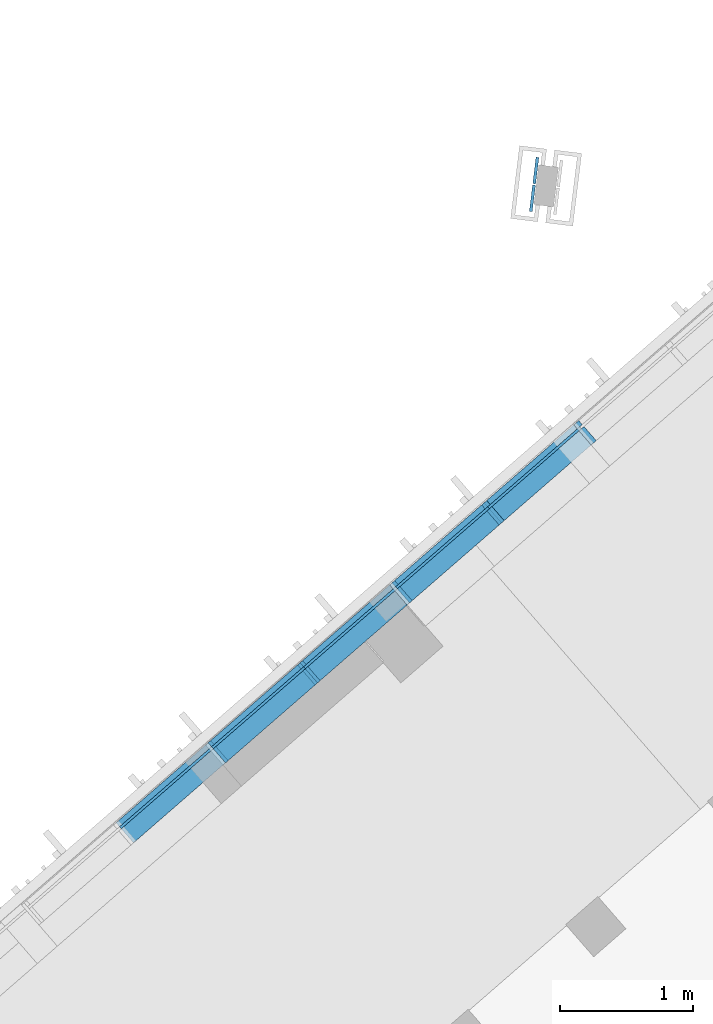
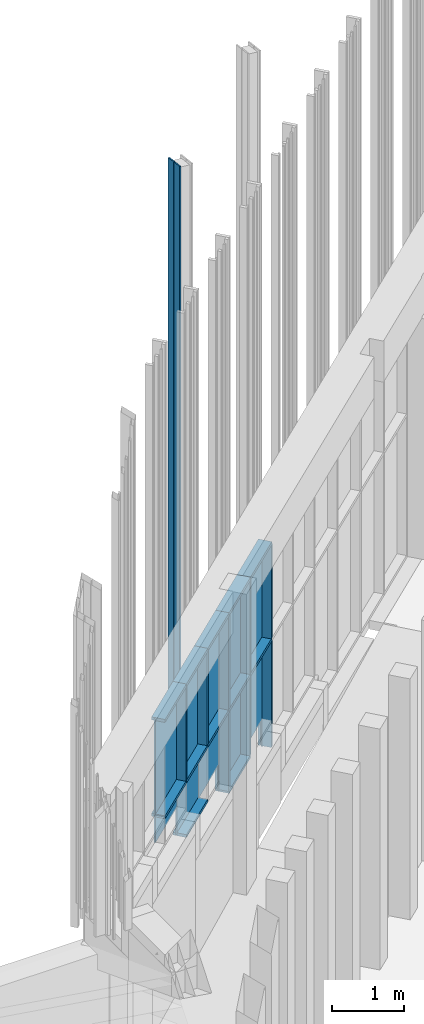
# One storey, part 34 of 390: 32 discrete accessories, 1 element without a shape of its own.
"""IFC2X3 building model written with IfcOpenShell, lengths in millimetres."""

from ifc_helpers import new_model, entity, si_unit, converted_unit, derived_unit, money_unit, direction, frame, origin_with_axes, place, context, subcontext, project, spatial, polyline, outline, extrude, faceted_brep, source, transform, mapped, material, material_list, type_object, element, aggregate, save


model = new_model("IFC2X3")

# Units and contexts
model_context = context("Model", 3, precision=1e-05, world=origin_with_axes(), true_north=direction((0.0, 1.0)))
body_context = subcontext(model_context, "Body", "Model", "MODEL_VIEW")
ifc_project = project(units=[si_unit("LENGTHUNIT", "METRE", prefix="MILLI"), si_unit("AREAUNIT", "SQUARE_METRE"), si_unit("VOLUMEUNIT", "CUBIC_METRE"), converted_unit("PLANEANGLEUNIT", "DEGREE", entity("IfcPlaneAngleMeasure", 0.0174532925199), si_unit("PLANEANGLEUNIT", "RADIAN"), dimensions=[0, 0, 0, 0, 0, 0, 0]), si_unit("SOLIDANGLEUNIT", "STERADIAN"), money_unit("EUR"), converted_unit("TIMEUNIT", "Year", entity("IfcTimeMeasure", 31556926.0), si_unit("TIMEUNIT", "SECOND"), dimensions=[0, 0, 1, 0, 0, 0, 0]), si_unit("MASSUNIT", "GRAM", prefix="KILO"), si_unit("THERMODYNAMICTEMPERATUREUNIT", "DEGREE_CELSIUS"), si_unit("LUMINOUSINTENSITYUNIT", "LUMEN"), si_unit("ENERGYUNIT", "JOULE", prefix="MEGA"), derived_unit("THERMALCONDUCTANCEUNIT", [(si_unit("POWERUNIT", "WATT"), 1), (si_unit("LENGTHUNIT", "METRE"), -1), (si_unit("THERMODYNAMICTEMPERATUREUNIT", "KELVIN"), -1)]), derived_unit("SPECIFICHEATCAPACITYUNIT", [(si_unit("ENERGYUNIT", "JOULE"), 1), (si_unit("MASSUNIT", "GRAM", prefix="KILO"), -1), (si_unit("THERMODYNAMICTEMPERATUREUNIT", "KELVIN"), -1)]), derived_unit("MASSDENSITYUNIT", [(si_unit("MASSUNIT", "GRAM", prefix="KILO"), 1), (si_unit("VOLUMEUNIT", "CUBIC_METRE"), -1)])], contexts=[model_context])

# Site, building, storey
site_placement = place(None, origin_with_axes())
site = spatial("IfcSite", under=ifc_project, at=site_placement, Name="Site", CompositionType="ELEMENT")
building_placement = place(site_placement, origin_with_axes())
building = spatial("IfcBuilding", under=site, at=building_placement, Name="Building", CompositionType="ELEMENT")
storey_placement = place(building_placement, origin_with_axes())
storey = spatial("IfcBuildingStorey", under=building, at=storey_placement, Name="1 korrus", CompositionType="ELEMENT", Elevation=0.0)

# Discrete accessories
ifc_material_1 = material(Name="GENEERILINE - VÄLINE VOODER")
discrete_accessory_type_1 = type_object("IfcDiscreteAccessoryType", Name="GENEERILINE - VÄLINE VOODER")
shared_shape_1 = source(origin_with_axes(), body_context, "Body", "Brep", [
    faceted_brep([(162190.360855, 119453.798876, 100.0), (162190.360855, 119453.798876, 9600.0), (162168.524839, 119456.480002, 9600.0), (162168.524839, 119456.480002, 100.0), (162214.734723, 119652.308107, 100.0), (162214.734723, 119652.308107, 9546.41016151), (162192.898708, 119654.989232, 9546.41016151), (162192.898708, 119654.989232, 100.0)], [[[0, 1, 2, 3]], [[1, 0, 4, 5]], [[2, 1, 5, 6]], [[3, 2, 6, 7]], [[0, 3, 7, 4]], [[7, 6, 5, 4]]]),
])
discrete_accessory_1_placement = place(storey_placement, frame((-34388.387752, -36599.4952705, 0.0), z_axis=(0.0, 0.0, 1.0), x_axis=(1.0, 0.0, 0.0)))
element("IfcDiscreteAccessory", 1, at=discrete_accessory_1_placement, inside=storey, type_object=discrete_accessory_type_1, material=ifc_material_1, Name="Päikesevarjestuspost", context=body_context, shape_type="MappedRepresentation", body=[
    mapped(shared_shape_1, transform((0.0, 0.0, 0.0))),
])
shared_shape_2 = source(origin_with_axes(), body_context, "Body", "Brep", [
    faceted_brep([(162194.117401, 119664.914694, 100.0), (162215.953417, 119662.233568, 100.0), (162215.953417, 119662.233568, 9543.73066959), (162194.117401, 119664.914694, 9543.73066959), (162218.49127, 119863.423924, 100.0), (162240.327285, 119860.742798, 100.0), (162240.327285, 119860.742798, 9490.1408311), (162218.49127, 119863.423924, 9490.1408311)], [[[0, 1, 2, 3]], [[1, 0, 4, 5]], [[2, 1, 5, 6]], [[3, 2, 6, 7]], [[0, 3, 7, 4]], [[4, 7, 6, 5]]]),
])
discrete_accessory_2_placement = place(storey_placement, frame((-34388.387752, -36599.4952705, 0.0), z_axis=(0.0, 0.0, 1.0), x_axis=(1.0, 0.0, 0.0)))
element("IfcDiscreteAccessory", 2, at=discrete_accessory_2_placement, inside=storey, type_object=discrete_accessory_type_1, material=ifc_material_1, Name="Päikesevarjestuspost", context=body_context, shape_type="MappedRepresentation", body=[
    mapped(shared_shape_2, transform((0.0, 0.0, 0.0))),
])

# Curtain wall, discrete accessories
curtain_wall_type = type_object("IfcCurtainWallType", Name="KLF-16", PredefinedType="NOTDEFINED")
curtain_wall_placement = place(storey_placement, frame((129915.663376, 82755.7268841, -0.000187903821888), z_axis=(0.0, 0.0, 1.0), x_axis=(1.0, 0.0, 0.0)))
curtain_wall = element("IfcCurtainWall", 3, at=curtain_wall_placement, inside=storey, type_object=curtain_wall_type, Name="Klaasfassaad")
ifc_material_2 = material(Name="Klaas")
discrete_accessory_type_2 = type_object("IfcDiscreteAccessoryType", Name="Distinct Panel 915 x 1855 x 20")
discrete_accessory_3_placement = place(curtain_wall_placement, frame((-1987.40188269, -1727.62210101, 1340.00023355), z_axis=(0.0, 0.0, 1.0), x_axis=(0.754709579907, 0.656059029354, 0.0)))
discrete_accessory_3 = element("IfcDiscreteAccessory", 4, at=discrete_accessory_3_placement, type_object=discrete_accessory_type_2, material=ifc_material_2, Name="KLF-16 klaaspakett", context=body_context, shape_type="SweptSolid", body=[
    extrude(outline(polyline([(-601.666693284, -1094.99995436), (313.33331867, -1094.99995436), (313.33331867, 760.00004148), (308.333368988, 760.00004148), (308.333368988, 294.999915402), (-601.666693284, 294.999915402), (-601.666693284, -1094.99995436)])), frame((0.0, -10.0, 0.0), z_axis=(0.0, 1.0, 0.0), x_axis=(1.0, 0.0, 0.0)), (0.0, 0.0, 1.0), 20.0),
])
discrete_accessory_type_3 = type_object("IfcDiscreteAccessoryType", Name="Distinct Panel 915 x 1645 x 20")
discrete_accessory_4_placement = place(curtain_wall_placement, frame((-3477.32438942, -3022.79197775, 3267.50003473), z_axis=(0.0, 0.0, 1.0), x_axis=(0.754709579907, 0.656059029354, 0.0)))
discrete_accessory_4 = element("IfcDiscreteAccessory", 5, at=discrete_accessory_4_placement, type_object=discrete_accessory_type_3, material=ifc_material_2, Name="KLF-16 klaaspakett", context=body_context, shape_type="SweptSolid", body=[
    extrude(outline(polyline([(-457.500010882, -812.499843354), (457.499999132, -812.499843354), (457.499999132, 832.499846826), (-457.500010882, 832.499846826), (-457.500010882, -812.499843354)])), frame((0.0, -10.0, 0.0), z_axis=(0.0, 1.0, 0.0), x_axis=(1.0, 0.0, 0.0)), (0.0, 0.0, 1.0), 20.0),
])
discrete_accessory_5_placement = place(curtain_wall_placement, frame((-2096.20585819, -1822.20395403, 3267.50003473), z_axis=(0.0, 0.0, 1.0), x_axis=(0.754709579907, 0.656059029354, 0.0)))
discrete_accessory_5 = element("IfcDiscreteAccessory", 6, at=discrete_accessory_5_placement, type_object=discrete_accessory_type_3, material=ifc_material_2, Name="KLF-16 klaaspakett", context=body_context, shape_type="SweptSolid", body=[
    extrude(outline(polyline([(-457.500010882, -812.499843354), (457.499999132, -812.499843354), (457.499999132, 832.499846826), (-457.500010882, 832.499846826), (-457.500010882, -812.499843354)])), frame((0.0, -10.0, 0.0), z_axis=(0.0, 1.0, 0.0), x_axis=(1.0, 0.0, 0.0)), (0.0, 0.0, 1.0), 20.0),
])
discrete_accessory_6_placement = place(curtain_wall_placement, frame((-2786.76512381, -2422.49796589, 3267.50003473), z_axis=(0.0, 0.0, 1.0), x_axis=(0.754709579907, 0.656059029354, 0.0)))
discrete_accessory_6 = element("IfcDiscreteAccessory", 7, at=discrete_accessory_6_placement, type_object=discrete_accessory_type_3, material=ifc_material_2, Name="KLF-16 klaaspakett", context=body_context, shape_type="SweptSolid", body=[
    extrude(outline(polyline([(-457.500010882, -812.499843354), (457.499999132, -812.499843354), (457.499999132, 832.499846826), (-457.500010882, 832.499846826), (-457.500010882, -812.499843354)])), frame((0.0, -10.0, 0.0), z_axis=(0.0, 1.0, 0.0), x_axis=(1.0, 0.0, 0.0)), (0.0, 0.0, 1.0), 20.0),
])
discrete_accessory_7_placement = place(curtain_wall_placement, frame((-4167.88365504, -3623.08598961, 3267.50003473), z_axis=(0.0, 0.0, 1.0), x_axis=(0.754709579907, 0.656059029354, 0.0)))
discrete_accessory_7 = element("IfcDiscreteAccessory", 8, at=discrete_accessory_7_placement, type_object=discrete_accessory_type_3, material=ifc_material_2, Name="KLF-16 klaaspakett", context=body_context, shape_type="SweptSolid", body=[
    extrude(outline(polyline([(-457.500010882, -812.499843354), (457.499999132, -812.499843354), (457.499999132, 832.499846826), (-457.500010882, 832.499846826), (-457.500010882, -812.499843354)])), frame((0.0, -10.0, 0.0), z_axis=(0.0, 1.0, 0.0), x_axis=(1.0, 0.0, 0.0)), (0.0, 0.0, 1.0), 20.0),
])
discrete_accessory_8_placement = place(curtain_wall_placement, frame((-4858.44292065, -4223.38000146, 3267.50003473), z_axis=(0.0, 0.0, 1.0), x_axis=(0.754709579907, 0.656059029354, 0.0)))
discrete_accessory_8 = element("IfcDiscreteAccessory", 9, at=discrete_accessory_8_placement, type_object=discrete_accessory_type_3, material=ifc_material_2, Name="KLF-16 klaaspakett", context=body_context, shape_type="SweptSolid", body=[
    extrude(outline(polyline([(-457.500010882, -812.499843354), (457.499999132, -812.499843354), (457.499999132, 832.499846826), (-457.500010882, 832.499846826), (-457.500010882, -812.499843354)])), frame((0.0, -10.0, 0.0), z_axis=(0.0, 1.0, 0.0), x_axis=(1.0, 0.0, 0.0)), (0.0, 0.0, 1.0), 20.0),
])
discrete_accessory_type_4 = type_object("IfcDiscreteAccessoryType", Name="Distinct Panel 915 x 1390 x 20")
discrete_accessory_9_placement = place(curtain_wall_placement, frame((-2786.76512381, -2422.49796589, 1730.00025144), z_axis=(0.0, 0.0, 1.0), x_axis=(0.754709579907, 0.656059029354, 0.0)))
discrete_accessory_9 = element("IfcDiscreteAccessory", 10, at=discrete_accessory_9_placement, type_object=discrete_accessory_type_4, material=ifc_material_2, Name="KLF-16 klaaspakett", context=body_context, shape_type="SweptSolid", body=[
    extrude(outline(polyline([(-457.499998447, -704.999936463), (457.500010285, -704.999936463), (457.500010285, 684.999935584), (-457.499998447, 684.999935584), (-457.499998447, -704.999936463)])), frame((0.0, -10.0, 0.0), z_axis=(0.0, 1.0, 0.0), x_axis=(1.0, 0.0, 0.0)), (0.0, 0.0, 1.0), 20.0),
])
discrete_accessory_10_placement = place(curtain_wall_placement, frame((-3368.52045386, -2928.21015945, 1648.33354409), z_axis=(0.0, 0.0, 1.0), x_axis=(0.754709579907, 0.656059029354, 0.0)))
discrete_accessory_10 = element("IfcDiscreteAccessory", 11, at=discrete_accessory_10_placement, type_object=discrete_accessory_type_4, material=ifc_material_2, Name="KLF-16 klaaspakett", context=body_context, shape_type="SweptSolid", body=[
    extrude(outline(polyline([(-601.666626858, -786.666643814), (313.333381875, -786.666643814), (313.333381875, 603.333228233), (308.333266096, 603.333228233), (308.333266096, 143.333418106), (-601.666626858, 143.333418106), (-601.666626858, -786.666643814)])), frame((0.0, -10.0, 0.0), z_axis=(0.0, 1.0, 0.0), x_axis=(1.0, 0.0, 0.0)), (0.0, 0.0, 1.0), 20.0),
])
discrete_accessory_type_5 = type_object("IfcDiscreteAccessoryType", Name="Distinct Panel 915 x 930 x 20")
discrete_accessory_11_placement = place(curtain_wall_placement, frame((-4167.88365504, -3623.08598961, 1960.00015865), z_axis=(0.0, 0.0, 1.0), x_axis=(0.754709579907, 0.656059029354, 0.0)))
discrete_accessory_11 = element("IfcDiscreteAccessory", 12, at=discrete_accessory_11_placement, type_object=discrete_accessory_type_5, material=ifc_material_2, Name="KLF-16 klaaspakett", context=body_context, shape_type="SweptSolid", body=[
    extrude(outline(polyline([(-457.500003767, -475.000029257), (457.500002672, -475.000029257), (457.500002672, 455.00002579), (-457.500003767, 455.00002579), (-457.500003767, -475.000029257)])), frame((0.0, -10.0, 0.0), z_axis=(0.0, 1.0, 0.0), x_axis=(1.0, 0.0, 0.0)), (0.0, 0.0, 1.0), 20.0),
])
discrete_accessory_12_placement = place(curtain_wall_placement, frame((-4749.63896368, -4128.79816455, 1956.66684377), z_axis=(0.0, 0.0, 1.0), x_axis=(0.754709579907, 0.656059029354, 0.0)))
discrete_accessory_12 = element("IfcDiscreteAccessory", 13, at=discrete_accessory_12_placement, type_object=discrete_accessory_type_5, material=ifc_material_2, Name="KLF-16 klaaspakett", context=body_context, shape_type="SweptSolid", body=[
    extrude(outline(polyline([(-601.666660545, -478.333344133), (313.333345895, -478.333344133), (313.333345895, 451.666710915), (308.333320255, 451.666710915), (308.333320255, -13.3334086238), (-601.666660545, -13.3333378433), (-601.666660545, -478.333344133)])), frame((0.0, -9.99999999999, 0.0), z_axis=(0.0, 1.0, 0.0), x_axis=(1.0, 0.0, 0.0)), (0.0, 0.0, 1.0), 20.0),
])
ifc_material_3 = material(Name="Aluminium MUST")
ifc_material_list_1 = material_list([ifc_material_3, ifc_material_3])
discrete_accessory_type_6 = type_object("IfcDiscreteAccessoryType", Name="50 x 200")
discrete_accessory_13_placement = place(curtain_wall_placement, frame((-3132.04475661, -2722.64497182, 1025.00031498), z_axis=(0.0, 0.0, 1.0), x_axis=(0.754709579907, 0.656059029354, 0.0)))
discrete_accessory_13 = element("IfcDiscreteAccessory", 14, at=discrete_accessory_13_placement, type_object=discrete_accessory_type_6, material=ifc_material_list_1, Name="KLF-16 profiil", context=body_context, shape_type="SweptSolid", body=[
    extrude(outline(polyline([(117.276593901, -96.8049612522), (25.4283297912, 8.85437993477), (-12.3071492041, -23.9485715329), (79.5411149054, -129.60791272), (117.276593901, -96.8049612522)])), frame((0.0, 0.0, 50.0), z_axis=(0.0, 0.0, 1.0), x_axis=(0.754709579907, -0.656059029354, 0.0)), (0.0, 0.0, 1.0), 1334.99987293),
    extrude(outline(polyline([(-51.6706909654, 21.3340032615), (-25.4283297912, -8.85437993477), (12.3071492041, 23.9485715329), (-13.93521197, 54.1369547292), (-51.6706909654, 21.3340032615)])), frame((0.0, 0.0, 50.0), z_axis=(0.0, 0.0, 1.0), x_axis=(0.754709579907, -0.656059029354, 0.0)), (0.0, 0.0, 1.0), 1334.99987293),
])
discrete_accessory_14_placement = place(curtain_wall_placement, frame((-2441.485491, -2122.35095996, 1025.00031498), z_axis=(0.0, 0.0, 1.0), x_axis=(0.754709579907, 0.656059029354, 0.0)))
discrete_accessory_14 = element("IfcDiscreteAccessory", 15, at=discrete_accessory_14_placement, type_object=discrete_accessory_type_6, material=ifc_material_list_1, Name="KLF-16 profiil", context=body_context, shape_type="SweptSolid", body=[
    extrude(outline(polyline([(117.276593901, -96.8049612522), (25.4283297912, 8.85437993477), (-12.3071492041, -23.9485715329), (79.5411149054, -129.60791272), (117.276593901, -96.8049612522)])), frame((0.0, 0.0, 50.0), z_axis=(0.0, 0.0, 1.0), x_axis=(0.754709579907, -0.656059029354, 0.0)), (0.0, 0.0, 1.0), 1334.99987293),
    extrude(outline(polyline([(-51.6706909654, 21.3340032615), (-25.4283297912, -8.85437993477), (12.3071492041, 23.9485715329), (-13.93521197, 54.1369547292), (-51.6706909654, 21.3340032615)])), frame((0.0, 0.0, 50.0), z_axis=(0.0, 0.0, 1.0), x_axis=(0.754709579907, -0.656059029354, 0.0)), (0.0, 0.0, 1.0), 1334.99987293),
])
discrete_accessory_15_placement = place(curtain_wall_placement, frame((-1750.92622538, -1522.0569481, 560.00019776), z_axis=(0.0, 0.0, 1.0), x_axis=(0.754709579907, 0.656059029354, 0.0)))
discrete_accessory_15 = element("IfcDiscreteAccessory", 16, at=discrete_accessory_15_placement, type_object=discrete_accessory_type_6, material=ifc_material_list_1, Name="KLF-16 profiil", context=body_context, shape_type="SweptSolid", body=[
    extrude(outline(polyline([(117.276593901, -96.8049612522), (25.4283297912, 8.85437993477), (-12.3071492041, -23.9485715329), (79.5411149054, -129.60791272), (117.276593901, -96.8049612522)])), frame((0.0, 0.0, 50.0), z_axis=(0.0, 0.0, 1.0), x_axis=(0.754709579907, -0.656059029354, 0.0)), (0.0, 0.0, 1.0), 1799.99999014),
    extrude(outline(polyline([(-51.6706909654, 21.3340032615), (-25.4283297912, -8.85437993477), (12.3071492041, 23.9485715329), (-13.93521197, 54.1369547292), (-51.6706909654, 21.3340032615)])), frame((0.0, 0.0, 50.0), z_axis=(0.0, 0.0, 1.0), x_axis=(0.754709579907, -0.656059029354, 0.0)), (0.0, 0.0, 1.0), 1799.99999014),
])
discrete_accessory_16_placement = place(curtain_wall_placement, frame((-1750.92622538, -1522.0569481, 2435.0001879), z_axis=(-0.754709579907, -0.656059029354, 0.0), x_axis=(0.0, 0.0, 1.0)))
discrete_accessory_16 = element("IfcDiscreteAccessory", 17, at=discrete_accessory_16_placement, type_object=discrete_accessory_type_6, material=ifc_material_list_1, Name="KLF-16 profiil", context=body_context, shape_type="SweptSolid", body=[
    extrude(outline(polyline([(-150.0, -25.0), (-9.99999999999, -25.0), (-9.99999999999, 25.0), (-150.0, 25.0), (-150.0, -25.0)])), frame((0.0, 0.0, 0.0), z_axis=(0.0, 0.0, 1.0), x_axis=(0.0, 1.0, 0.0)), (0.0, 0.0, 1.0), 915.0),
    extrude(outline(polyline([(50.0, 25.0), (10.0, 25.0), (10.0, -25.0), (50.0, -25.0), (50.0, 25.0)])), frame((0.0, 0.0, 0.0), z_axis=(0.0, 0.0, 1.0), x_axis=(0.0, 1.0, 0.0)), (0.0, 0.0, 1.0), 915.0),
])
ifc_material_list_2 = material_list([ifc_material_3, ifc_material_3, ifc_material_3])
discrete_accessory_17_placement = place(curtain_wall_placement, frame((-3822.60402223, -3322.93898368, 1485.00012939), z_axis=(-0.754709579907, -0.656059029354, 0.0), x_axis=(0.0, 0.0, 1.0)))
discrete_accessory_17 = element("IfcDiscreteAccessory", 18, at=discrete_accessory_17_placement, type_object=discrete_accessory_type_6, material=ifc_material_list_2, Name="KLF-16 profiil", context=body_context, shape_type="SweptSolid", body=[
    extrude(outline(polyline([(-9.99999999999, -25.0), (10.0, -25.0), (10.0, 0.0), (-9.99999999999, 0.0), (-9.99999999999, -25.0)])), frame((0.0, 0.0, 0.0), z_axis=(0.0, 0.0, 1.0), x_axis=(0.0, 1.0, 0.0)), (0.0, 0.0, 1.0), 915.0),
    extrude(outline(polyline([(-150.0, -50.0), (-9.99999999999, -50.0), (-9.99999999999, 0.0), (-150.0, 0.0), (-150.0, -50.0)])), frame((0.0, 0.0, 0.0), z_axis=(0.0, 0.0, 1.0), x_axis=(0.0, 1.0, 0.0)), (0.0, 0.0, 1.0), 915.0),
    extrude(outline(polyline([(50.0, 0.0), (10.0, 0.0), (10.0, -50.0), (50.0, -50.0), (50.0, 0.0)])), frame((0.0, 0.0, 0.0), z_axis=(0.0, 0.0, 1.0), x_axis=(0.0, 1.0, 0.0)), (0.0, 0.0, 1.0), 915.0),
])
discrete_accessory_18_placement = place(curtain_wall_placement, frame((-2441.485491, -2122.35095996, 1025.00031498), z_axis=(-0.754709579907, -0.656059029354, 0.0), x_axis=(0.0, 0.0, 1.0)))
discrete_accessory_18 = element("IfcDiscreteAccessory", 19, at=discrete_accessory_18_placement, type_object=discrete_accessory_type_6, material=ifc_material_list_2, Name="KLF-16 profiil", context=body_context, shape_type="SweptSolid", body=[
    extrude(outline(polyline([(-10.0, -25.0), (10.0, -25.0), (10.0, 0.0), (-10.0, 0.0), (-10.0, -25.0)])), frame((0.0, 0.0, 0.0), z_axis=(0.0, 0.0, 1.0), x_axis=(0.0, 1.0, 0.0)), (0.0, 0.0, 1.0), 915.0),
    extrude(outline(polyline([(-150.0, -50.0), (-10.0, -50.0), (-10.0, 0.0), (-150.0, 0.0), (-150.0, -50.0)])), frame((0.0, 0.0, 0.0), z_axis=(0.0, 0.0, 1.0), x_axis=(0.0, 1.0, 0.0)), (0.0, 0.0, 1.0), 915.0),
    extrude(outline(polyline([(50.0, 0.0), (10.0, 0.0), (10.0, -50.0), (50.0, -50.0), (50.0, 0.0)])), frame((0.0, 0.0, 0.0), z_axis=(0.0, 0.0, 1.0), x_axis=(0.0, 1.0, 0.0)), (0.0, 0.0, 1.0), 915.0),
])
discrete_accessory_19_placement = place(curtain_wall_placement, frame((-2441.485491, -2122.35095996, 2435.0001879), z_axis=(-0.754709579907, -0.656059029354, 0.0), x_axis=(0.0, 0.0, 1.0)))
discrete_accessory_19 = element("IfcDiscreteAccessory", 20, at=discrete_accessory_19_placement, type_object=discrete_accessory_type_6, material=ifc_material_list_1, Name="KLF-16 profiil", context=body_context, shape_type="SweptSolid", body=[
    extrude(outline(polyline([(-150.0, -25.0), (-9.99999999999, -25.0), (-9.99999999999, 25.0), (-150.0, 25.0), (-150.0, -25.0)])), frame((0.0, 0.0, 0.0), z_axis=(0.0, 0.0, 1.0), x_axis=(0.0, 1.0, 0.0)), (0.0, 0.0, 1.0), 915.0),
    extrude(outline(polyline([(50.0, 25.0), (10.0, 25.0), (10.0, -25.0), (50.0, -25.0), (50.0, 25.0)])), frame((0.0, 0.0, 0.0), z_axis=(0.0, 0.0, 1.0), x_axis=(0.0, 1.0, 0.0)), (0.0, 0.0, 1.0), 915.0),
])
discrete_accessory_20_placement = place(curtain_wall_placement, frame((-3132.04475661, -2722.64497182, 2435.0001879), z_axis=(-0.754709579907, -0.656059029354, 0.0), x_axis=(0.0, 0.0, 1.0)))
discrete_accessory_20 = element("IfcDiscreteAccessory", 21, at=discrete_accessory_20_placement, type_object=discrete_accessory_type_6, material=ifc_material_list_1, Name="KLF-16 profiil", context=body_context, shape_type="SweptSolid", body=[
    extrude(outline(polyline([(-150.0, -25.0), (-10.0, -25.0), (-10.0, 25.0), (-150.0, 25.0), (-150.0, -25.0)])), frame((0.0, 0.0, 0.0), z_axis=(0.0, 0.0, 1.0), x_axis=(0.0, 1.0, 0.0)), (0.0, 0.0, 1.0), 915.0),
    extrude(outline(polyline([(50.0, 25.0), (9.99999999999, 25.0), (9.99999999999, -25.0), (50.0, -25.0), (50.0, 25.0)])), frame((0.0, 0.0, 0.0), z_axis=(0.0, 0.0, 1.0), x_axis=(0.0, 1.0, 0.0)), (0.0, 0.0, 1.0), 915.0),
])
discrete_accessory_21_placement = place(curtain_wall_placement, frame((-3822.60402223, -3322.93898368, 2435.0001879), z_axis=(-0.754709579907, -0.656059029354, 0.0), x_axis=(0.0, 0.0, 1.0)))
discrete_accessory_21 = element("IfcDiscreteAccessory", 22, at=discrete_accessory_21_placement, type_object=discrete_accessory_type_6, material=ifc_material_list_1, Name="KLF-16 profiil", context=body_context, shape_type="SweptSolid", body=[
    extrude(outline(polyline([(-150.0, -25.0), (-9.99999999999, -25.0), (-9.99999999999, 25.0), (-150.0, 25.0), (-150.0, -25.0)])), frame((0.0, 0.0, 0.0), z_axis=(0.0, 0.0, 1.0), x_axis=(0.0, 1.0, 0.0)), (0.0, 0.0, 1.0), 915.0),
    extrude(outline(polyline([(50.0, 25.0), (10.0, 25.0), (10.0, -25.0), (50.0, -25.0), (50.0, 25.0)])), frame((0.0, 0.0, 0.0), z_axis=(0.0, 0.0, 1.0), x_axis=(0.0, 1.0, 0.0)), (0.0, 0.0, 1.0), 915.0),
])
discrete_accessory_22_placement = place(curtain_wall_placement, frame((-4513.16328784, -3923.23299553, 2435.0001879), z_axis=(-0.754709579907, -0.656059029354, 0.0), x_axis=(0.0, 0.0, 1.0)))
discrete_accessory_22 = element("IfcDiscreteAccessory", 23, at=discrete_accessory_22_placement, type_object=discrete_accessory_type_6, material=ifc_material_list_1, Name="KLF-16 profiil", context=body_context, shape_type="SweptSolid", body=[
    extrude(outline(polyline([(-150.0, -25.0), (-10.0, -25.0), (-10.0, 25.0), (-150.0, 25.0), (-150.0, -25.0)])), frame((0.0, 0.0, 0.0), z_axis=(0.0, 0.0, 1.0), x_axis=(0.0, 1.0, 0.0)), (0.0, 0.0, 1.0), 915.0),
    extrude(outline(polyline([(50.0, 25.0), (9.99999999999, 25.0), (9.99999999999, -25.0), (50.0, -25.0), (50.0, 25.0)])), frame((0.0, 0.0, 0.0), z_axis=(0.0, 0.0, 1.0), x_axis=(0.0, 1.0, 0.0)), (0.0, 0.0, 1.0), 915.0),
])
discrete_accessory_23_placement = place(curtain_wall_placement, frame((-1750.92622538, -1522.0569481, 2435.0001879), z_axis=(0.0, 0.0, 1.0), x_axis=(0.754709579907, 0.656059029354, 0.0)))
discrete_accessory_23 = element("IfcDiscreteAccessory", 24, at=discrete_accessory_23_placement, type_object=discrete_accessory_type_6, material=ifc_material_list_1, Name="KLF-16 profiil", context=body_context, shape_type="SweptSolid", body=[
    extrude(outline(polyline([(117.276593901, -96.8049612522), (25.4283297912, 8.85437993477), (-12.3071492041, -23.9485715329), (79.5411149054, -129.60791272), (117.276593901, -96.8049612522)])), frame((0.0, 0.0, 25.0), z_axis=(0.0, 0.0, 1.0), x_axis=(0.754709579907, -0.656059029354, 0.0)), (0.0, 0.0, 1.0), 1589.99969365),
    extrude(outline(polyline([(-51.6706909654, 21.3340032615), (-25.4283297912, -8.85437993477), (12.3071492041, 23.9485715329), (-13.93521197, 54.1369547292), (-51.6706909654, 21.3340032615)])), frame((0.0, 0.0, 25.0), z_axis=(0.0, 0.0, 1.0), x_axis=(0.754709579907, -0.656059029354, 0.0)), (0.0, 0.0, 1.0), 1589.99969365),
])
discrete_accessory_24_placement = place(curtain_wall_placement, frame((-2441.485491, -2122.35095996, 4099.99988156), z_axis=(0.754709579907, 0.656059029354, 0.0), x_axis=(0.0, 0.0, -1.0)))
discrete_accessory_24 = element("IfcDiscreteAccessory", 25, at=discrete_accessory_24_placement, type_object=discrete_accessory_type_6, material=ifc_material_list_2, Name="KLF-16 profiil", context=body_context, shape_type="SweptSolid", body=[
    extrude(outline(polyline([(10.0, 25.0), (-9.99999999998, 25.0), (-9.99999999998, 0.0), (10.0, 0.0), (10.0, 25.0)])), frame((0.0, 0.0, 0.0), z_axis=(0.0, 0.0, 1.0), x_axis=(0.0, -1.0, 0.0)), (0.0, 0.0, 1.0), 915.0),
    extrude(outline(polyline([(150.0, 50.0), (10.0, 50.0), (10.0, 0.0), (150.0, 0.0), (150.0, 50.0)])), frame((0.0, 0.0, 0.0), z_axis=(0.0, 0.0, 1.0), x_axis=(0.0, -1.0, 0.0)), (0.0, 0.0, 1.0), 915.0),
    extrude(outline(polyline([(-50.0, 0.0), (-9.99999999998, 0.0), (-9.99999999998, 50.0), (-50.0, 50.0), (-50.0, 0.0)])), frame((0.0, 0.0, 0.0), z_axis=(0.0, 0.0, 1.0), x_axis=(0.0, -1.0, 0.0)), (0.0, 0.0, 1.0), 915.0),
])
discrete_accessory_25_placement = place(curtain_wall_placement, frame((-2441.485491, -2122.35095996, 2435.0001879), z_axis=(0.0, 0.0, 1.0), x_axis=(0.754709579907, 0.656059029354, 0.0)))
discrete_accessory_25 = element("IfcDiscreteAccessory", 26, at=discrete_accessory_25_placement, type_object=discrete_accessory_type_6, material=ifc_material_list_1, Name="KLF-16 profiil", context=body_context, shape_type="SweptSolid", body=[
    extrude(outline(polyline([(117.276593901, -96.8049612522), (25.4283297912, 8.85437993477), (-12.3071492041, -23.9485715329), (79.5411149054, -129.60791272), (117.276593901, -96.8049612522)])), frame((0.0, 0.0, 25.0), z_axis=(0.0, 0.0, 1.0), x_axis=(0.754709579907, -0.656059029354, 0.0)), (0.0, 0.0, 1.0), 1589.99969365),
    extrude(outline(polyline([(-51.6706909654, 21.3340032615), (-25.4283297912, -8.85437993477), (12.3071492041, 23.9485715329), (-13.93521197, 54.1369547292), (-51.6706909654, 21.3340032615)])), frame((0.0, 0.0, 25.0), z_axis=(0.0, 0.0, 1.0), x_axis=(0.754709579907, -0.656059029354, 0.0)), (0.0, 0.0, 1.0), 1589.99969365),
])
discrete_accessory_26_placement = place(curtain_wall_placement, frame((-3132.04475661, -2722.64497182, 4099.99988156), z_axis=(0.754709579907, 0.656059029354, 0.0), x_axis=(0.0, 0.0, -1.0)))
discrete_accessory_26 = element("IfcDiscreteAccessory", 27, at=discrete_accessory_26_placement, type_object=discrete_accessory_type_6, material=ifc_material_list_2, Name="KLF-16 profiil", context=body_context, shape_type="SweptSolid", body=[
    extrude(outline(polyline([(10.0, 25.0), (-10.0, 25.0), (-10.0, 0.0), (10.0, 0.0), (10.0, 25.0)])), frame((0.0, 0.0, 0.0), z_axis=(0.0, 0.0, 1.0), x_axis=(0.0, -1.0, 0.0)), (0.0, 0.0, 1.0), 915.0),
    extrude(outline(polyline([(150.0, 50.0), (10.0, 50.0), (10.0, 0.0), (150.0, 0.0), (150.0, 50.0)])), frame((0.0, 0.0, 0.0), z_axis=(0.0, 0.0, 1.0), x_axis=(0.0, -1.0, 0.0)), (0.0, 0.0, 1.0), 915.0),
    extrude(outline(polyline([(-50.0, 0.0), (-10.0, 0.0), (-10.0, 50.0), (-50.0, 50.0), (-50.0, 0.0)])), frame((0.0, 0.0, 0.0), z_axis=(0.0, 0.0, 1.0), x_axis=(0.0, -1.0, 0.0)), (0.0, 0.0, 1.0), 915.0),
])
discrete_accessory_27_placement = place(curtain_wall_placement, frame((-3132.04475661, -2722.64497182, 2435.0001879), z_axis=(0.0, 0.0, 1.0), x_axis=(0.754709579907, 0.656059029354, 0.0)))
discrete_accessory_27 = element("IfcDiscreteAccessory", 28, at=discrete_accessory_27_placement, type_object=discrete_accessory_type_6, material=ifc_material_list_1, Name="KLF-16 profiil", context=body_context, shape_type="SweptSolid", body=[
    extrude(outline(polyline([(117.276593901, -96.8049612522), (25.4283297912, 8.85437993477), (-12.3071492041, -23.9485715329), (79.5411149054, -129.60791272), (117.276593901, -96.8049612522)])), frame((0.0, 0.0, 25.0), z_axis=(0.0, 0.0, 1.0), x_axis=(0.754709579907, -0.656059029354, 0.0)), (0.0, 0.0, 1.0), 1589.99969365),
    extrude(outline(polyline([(-51.6706909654, 21.3340032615), (-25.4283297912, -8.85437993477), (12.3071492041, 23.9485715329), (-13.93521197, 54.1369547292), (-51.6706909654, 21.3340032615)])), frame((0.0, 0.0, 25.0), z_axis=(0.0, 0.0, 1.0), x_axis=(0.754709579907, -0.656059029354, 0.0)), (0.0, 0.0, 1.0), 1589.99969365),
])
discrete_accessory_28_placement = place(curtain_wall_placement, frame((-3822.60402223, -3322.93898368, 4099.99988156), z_axis=(0.754709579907, 0.656059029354, 0.0), x_axis=(0.0, 0.0, -1.0)))
discrete_accessory_28 = element("IfcDiscreteAccessory", 29, at=discrete_accessory_28_placement, type_object=discrete_accessory_type_6, material=ifc_material_list_2, Name="KLF-16 profiil", context=body_context, shape_type="SweptSolid", body=[
    extrude(outline(polyline([(9.99999999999, 25.0), (-10.0, 25.0), (-10.0, 0.0), (9.99999999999, 0.0), (9.99999999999, 25.0)])), frame((0.0, 0.0, 0.0), z_axis=(0.0, 0.0, 1.0), x_axis=(0.0, -1.0, 0.0)), (0.0, 0.0, 1.0), 915.0),
    extrude(outline(polyline([(150.0, 50.0), (9.99999999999, 50.0), (9.99999999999, 0.0), (150.0, 0.0), (150.0, 50.0)])), frame((0.0, 0.0, 0.0), z_axis=(0.0, 0.0, 1.0), x_axis=(0.0, -1.0, 0.0)), (0.0, 0.0, 1.0), 915.0),
    extrude(outline(polyline([(-50.0, 0.0), (-10.0, 0.0), (-10.0, 50.0), (-50.0, 50.0), (-50.0, 0.0)])), frame((0.0, 0.0, 0.0), z_axis=(0.0, 0.0, 1.0), x_axis=(0.0, -1.0, 0.0)), (0.0, 0.0, 1.0), 915.0),
])
discrete_accessory_29_placement = place(curtain_wall_placement, frame((-3822.60402223, -3322.93898368, 2435.0001879), z_axis=(0.0, 0.0, 1.0), x_axis=(0.754709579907, 0.656059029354, 0.0)))
discrete_accessory_29 = element("IfcDiscreteAccessory", 30, at=discrete_accessory_29_placement, type_object=discrete_accessory_type_6, material=ifc_material_list_1, Name="KLF-16 profiil", context=body_context, shape_type="SweptSolid", body=[
    extrude(outline(polyline([(117.276593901, -96.8049612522), (25.4283297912, 8.85437993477), (-12.3071492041, -23.9485715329), (79.5411149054, -129.60791272), (117.276593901, -96.8049612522)])), frame((0.0, 0.0, 25.0), z_axis=(0.0, 0.0, 1.0), x_axis=(0.754709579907, -0.656059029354, 0.0)), (0.0, 0.0, 1.0), 1589.99969365),
    extrude(outline(polyline([(-51.6706909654, 21.3340032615), (-25.4283297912, -8.85437993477), (12.3071492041, 23.9485715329), (-13.93521197, 54.1369547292), (-51.6706909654, 21.3340032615)])), frame((0.0, 0.0, 25.0), z_axis=(0.0, 0.0, 1.0), x_axis=(0.754709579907, -0.656059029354, 0.0)), (0.0, 0.0, 1.0), 1589.99969365),
])
discrete_accessory_30_placement = place(curtain_wall_placement, frame((-4513.16328784, -3923.23299553, 4099.99988156), z_axis=(0.754709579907, 0.656059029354, 0.0), x_axis=(0.0, 0.0, -1.0)))
discrete_accessory_30 = element("IfcDiscreteAccessory", 31, at=discrete_accessory_30_placement, type_object=discrete_accessory_type_6, material=ifc_material_list_2, Name="KLF-16 profiil", context=body_context, shape_type="SweptSolid", body=[
    extrude(outline(polyline([(9.99999999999, 25.0), (-10.0, 25.0), (-10.0, 0.0), (9.99999999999, 0.0), (9.99999999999, 25.0)])), frame((0.0, 0.0, 0.0), z_axis=(0.0, 0.0, 1.0), x_axis=(0.0, -1.0, 0.0)), (0.0, 0.0, 1.0), 915.0),
    extrude(outline(polyline([(150.0, 50.0), (9.99999999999, 50.0), (9.99999999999, 0.0), (150.0, 0.0), (150.0, 50.0)])), frame((0.0, 0.0, 0.0), z_axis=(0.0, 0.0, 1.0), x_axis=(0.0, -1.0, 0.0)), (0.0, 0.0, 1.0), 915.0),
    extrude(outline(polyline([(-50.0, 0.0), (-10.0, 0.0), (-10.0, 50.0), (-50.0, 50.0), (-50.0, 0.0)])), frame((0.0, 0.0, 0.0), z_axis=(0.0, 0.0, 1.0), x_axis=(0.0, -1.0, 0.0)), (0.0, 0.0, 1.0), 915.0),
])
discrete_accessory_31_placement = place(curtain_wall_placement, frame((-4513.16328784, -3923.23299553, 2435.0001879), z_axis=(0.0, 0.0, 1.0), x_axis=(0.754709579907, 0.656059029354, 0.0)))
discrete_accessory_31 = element("IfcDiscreteAccessory", 32, at=discrete_accessory_31_placement, type_object=discrete_accessory_type_6, material=ifc_material_list_1, Name="KLF-16 profiil", context=body_context, shape_type="SweptSolid", body=[
    extrude(outline(polyline([(117.276593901, -96.8049612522), (25.4283297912, 8.85437993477), (-12.3071492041, -23.9485715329), (79.5411149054, -129.60791272), (117.276593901, -96.8049612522)])), frame((0.0, 0.0, 25.0), z_axis=(0.0, 0.0, 1.0), x_axis=(0.754709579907, -0.656059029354, 0.0)), (0.0, 0.0, 1.0), 1589.99969365),
    extrude(outline(polyline([(-51.6706909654, 21.3340032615), (-25.4283297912, -8.85437993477), (12.3071492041, 23.9485715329), (-13.93521197, 54.1369547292), (-51.6706909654, 21.3340032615)])), frame((0.0, 0.0, 25.0), z_axis=(0.0, 0.0, 1.0), x_axis=(0.754709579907, -0.656059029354, 0.0)), (0.0, 0.0, 1.0), 1589.99969365),
])
discrete_accessory_32_placement = place(curtain_wall_placement, frame((-5203.72255346, -4523.52700739, 4099.99988156), z_axis=(0.754709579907, 0.656059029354, 0.0), x_axis=(0.0, 0.0, -1.0)))
discrete_accessory_32 = element("IfcDiscreteAccessory", 33, at=discrete_accessory_32_placement, type_object=discrete_accessory_type_6, material=ifc_material_list_2, Name="KLF-16 profiil", context=body_context, shape_type="SweptSolid", body=[
    extrude(outline(polyline([(10.0, 25.0), (-10.0, 25.0), (-10.0, 0.0), (10.0, 0.0), (10.0, 25.0)])), frame((0.0, 0.0, 0.0), z_axis=(0.0, 0.0, 1.0), x_axis=(0.0, -1.0, 0.0)), (0.0, 0.0, 1.0), 915.0),
    extrude(outline(polyline([(150.0, 50.0), (10.0, 50.0), (10.0, 0.0), (150.0, 0.0), (150.0, 50.0)])), frame((0.0, 0.0, 0.0), z_axis=(0.0, 0.0, 1.0), x_axis=(0.0, -1.0, 0.0)), (0.0, 0.0, 1.0), 915.0),
    extrude(outline(polyline([(-50.0, 0.0), (-10.0, 0.0), (-10.0, 50.0), (-50.0, 50.0), (-50.0, 0.0)])), frame((0.0, 0.0, 0.0), z_axis=(0.0, 0.0, 1.0), x_axis=(0.0, -1.0, 0.0)), (0.0, 0.0, 1.0), 915.0),
])
aggregate(curtain_wall, [discrete_accessory_3, discrete_accessory_9, discrete_accessory_4, discrete_accessory_11, discrete_accessory_10, discrete_accessory_12, discrete_accessory_5, discrete_accessory_6, discrete_accessory_7, discrete_accessory_8, discrete_accessory_13, discrete_accessory_14, discrete_accessory_15, discrete_accessory_16, discrete_accessory_17, discrete_accessory_18, discrete_accessory_19, discrete_accessory_20, discrete_accessory_21, discrete_accessory_22, discrete_accessory_23, discrete_accessory_24, discrete_accessory_25, discrete_accessory_26, discrete_accessory_27, discrete_accessory_28, discrete_accessory_29, discrete_accessory_30, discrete_accessory_31, discrete_accessory_32])

save(model, "model.ifc")
